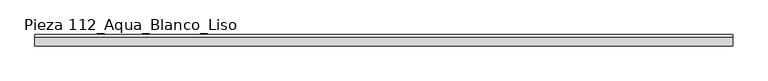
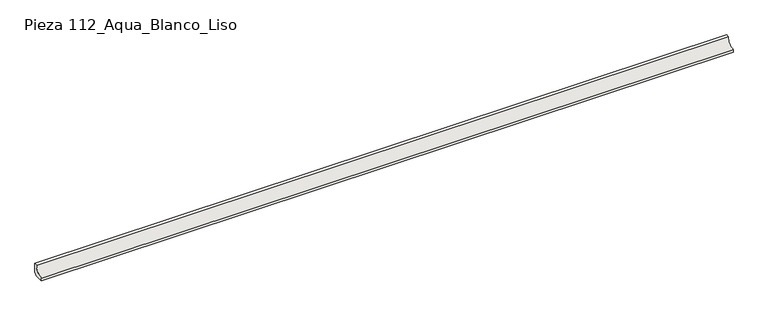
"""IFC4 building model written with IfcOpenShell, lengths in millimetres: slab geometry, ROSA GRES_112 : Pieza 112_Aqua_Blanco_Liso."""

import ifcopenshell
import ifcopenshell.guid

model = None  # the IFC model being written
_history = None  # IfcOwnerHistory: only IFC2X3 demands one
_inside = {}  # id of a spatial element -> (the spatial element, [elements in it])
_under = {}  # id of a project, library or spatial element -> (it, [spatial elements below it])
_declared = {}  # id of a project -> (the project, [libraries it declares])
_typed = {}  # id of a type object -> (the type object, [elements of that type])
_made_of = {}  # id of a material, layer set ... -> (it, [elements and type objects made of it])


def new_model(schema):
    """Start an empty IFC model of exactly this schema.

    Asked for "IFC4X3", IfcOpenShell would pick the latest addendum, in which some entities
    have other attributes; the version numbers below select the first issue.
    IFC2X3 requires an IfcOwnerHistory on every rooted entity: one is made here for all.
    """
    global model, _history
    if schema == "IFC4X3":
        model = ifcopenshell.file(schema_version=(4, 3, 0, 0))
    else:
        model = ifcopenshell.file(schema=schema)
    _inside.clear()
    _under.clear()
    _declared.clear()
    _typed.clear()
    _made_of.clear()
    _history = None
    if model.schema == "IFC2X3":
        org = make("IfcOrganization", Name="unknown")
        user = make(
            "IfcPersonAndOrganization",
            ThePerson=make("IfcPerson", FamilyName="unknown"),
            TheOrganization=org,
        )
        app = make(
            "IfcApplication",
            ApplicationDeveloper=org,
            Version="unknown",
            ApplicationFullName="unknown",
            ApplicationIdentifier="unknown",
        )
        _history = make(
            "IfcOwnerHistory",
            OwningUser=user,
            OwningApplication=app,
            ChangeAction="ADDED",
            CreationDate=0,
        )
    return model


def make(cls, **values):
    """One entity of the class cls with the attributes given. An attribute that is None is left unset."""
    return model.create_entity(
        cls, **{name: value for name, value in values.items() if value is not None}
    )


def rooted(cls, **values):
    """An entity with a GlobalId (a new one), such as an element, a storey or a relation."""
    return make(cls, GlobalId=ifcopenshell.guid.new(), OwnerHistory=_history, **values)


def si_unit(unit_type, name, prefix=None):
    """IfcSIUnit, for example si_unit("LENGTHUNIT", "METRE", prefix="MILLI")."""
    return make("IfcSIUnit", UnitType=unit_type, Prefix=prefix, Name=name)


def assignment(units):
    """IfcUnitAssignment: the units of a project."""
    return None if units is None else make("IfcUnitAssignment", Units=units)


def point(xyz):
    """IfcCartesianPoint."""
    return None if xyz is None else make("IfcCartesianPoint", Coordinates=xyz)


def direction(xyz):
    """IfcDirection."""
    return None if xyz is None else make("IfcDirection", DirectionRatios=xyz)


def frame(location, z_axis=None, x_axis=None):
    """IfcAxis2Placement3D, a coordinate frame: its origin and axes. An axis left out is left unset."""
    return make(
        "IfcAxis2Placement3D",
        Location=point(location),
        Axis=direction(z_axis),
        RefDirection=direction(x_axis),
    )


def frame_2d(location, x_axis=None):
    """IfcAxis2Placement2D, a coordinate frame in the plane: its origin and x axis."""
    return make(
        "IfcAxis2Placement2D", Location=point(location), RefDirection=direction(x_axis)
    )


def origin():
    """The frame at (0, 0, 0) with its axes left unset."""
    return frame((0.0, 0.0, 0.0))


def place(relative_to, where):
    """IfcLocalPlacement: puts the frame where relative to a parent placement (None: the world)."""
    return make(
        "IfcLocalPlacement", PlacementRelTo=relative_to, RelativePlacement=where
    )


def context(
    kind, dimensions, precision=None, world=None, true_north=None, identifier=None
):
    """IfcGeometricRepresentationContext, for example the 3D "Model" context."""
    return make(
        "IfcGeometricRepresentationContext",
        ContextIdentifier=identifier,
        ContextType=kind,
        CoordinateSpaceDimension=dimensions,
        Precision=precision,
        WorldCoordinateSystem=world,
        TrueNorth=true_north,
    )


def project(units=None, contexts=None):
    """IfcProject with its units and contexts."""
    return rooted(
        "IfcProject",
        Name="project",
        RepresentationContexts=contexts,
        UnitsInContext=assignment(units),
    )


def spatial(cls, under=None, at=None, **own):
    """A site, building, storey or space (cls), placed at a placement, below another one or the project."""
    s = rooted(cls, ObjectPlacement=at, **own)
    if under is not None:
        _under.setdefault(under.id(), (under, []))[1].append(s)
    return s


def polyline(points):
    """IfcPolyline through the points."""
    return make("IfcPolyline", Points=[point(p) for p in points])


def circle_curve(where, radius):
    """IfcCircle in the frame where."""
    return make("IfcCircle", Position=where, Radius=radius)


def trimmed(basis, trim1, trim2, sense, master):
    """IfcTrimmedCurve: the piece of a basis curve between two trims."""
    return make(
        "IfcTrimmedCurve",
        BasisCurve=basis,
        Trim1=trim1,
        Trim2=trim2,
        SenseAgreement=sense,
        MasterRepresentation=master,
    )


def segment(curve, same_sense, transition):
    """IfcCompositeCurveSegment."""
    return make(
        "IfcCompositeCurveSegment",
        Transition=transition,
        SameSense=same_sense,
        ParentCurve=curve,
    )


def composite_curve(segments, self_intersect=None):
    """IfcCompositeCurve: segments joined end to end."""
    return make("IfcCompositeCurve", Segments=segments, SelfIntersect=self_intersect)


def outline(outer, holes=None, kind="AREA"):
    """IfcArbitraryClosedProfileDef: a profile drawn as a closed curve; with holes, ...WithVoids."""
    if holes is None:
        return make("IfcArbitraryClosedProfileDef", ProfileType=kind, OuterCurve=outer)
    return make(
        "IfcArbitraryProfileDefWithVoids",
        ProfileType=kind,
        OuterCurve=outer,
        InnerCurves=holes,
    )


def extrude(swept, where, along, depth):
    """IfcExtrudedAreaSolid: the profile swept, set in the frame where, extruded along a direction by depth."""
    return make(
        "IfcExtrudedAreaSolid",
        SweptArea=swept,
        Position=where,
        ExtrudedDirection=direction(along),
        Depth=depth,
    )


def shape(context_of_items, identifier, shape_type, items):
    """IfcShapeRepresentation: the items that make up one representation, for example the "Body"."""
    return make(
        "IfcShapeRepresentation",
        ContextOfItems=context_of_items,
        RepresentationIdentifier=identifier,
        RepresentationType=shape_type,
        Items=items,
    )


def source(mapping_origin, context_of_items, identifier, shape_type, items):
    """IfcRepresentationMap: a shape defined once, which mapped items show again and again."""
    return make(
        "IfcRepresentationMap",
        MappingOrigin=mapping_origin,
        MappedRepresentation=shape(context_of_items, identifier, shape_type, items),
    )


def transform(
    local_origin,
    x_axis=None,
    y_axis=None,
    z_axis=None,
    scale=None,
    scale2=None,
    scale3=None,
    uniform=True,
):
    """IfcCartesianTransformationOperator3D, or its non-uniform kind. x_axis, y_axis, z_axis: its Axis1, 2, 3."""
    if uniform:
        return make(
            "IfcCartesianTransformationOperator3D",
            Axis1=direction(x_axis),
            Axis2=direction(y_axis),
            LocalOrigin=point(local_origin),
            Scale=scale,
            Axis3=direction(z_axis),
        )
    return make(
        "IfcCartesianTransformationOperator3DnonUniform",
        Axis1=direction(x_axis),
        Axis2=direction(y_axis),
        LocalOrigin=point(local_origin),
        Scale=scale,
        Axis3=direction(z_axis),
        Scale2=scale2,
        Scale3=scale3,
    )


def mapped(mapping_source, mapping_target):
    """IfcMappedItem: shows the shape of a source again, moved by a transform."""
    return make(
        "IfcMappedItem", MappingSource=mapping_source, MappingTarget=mapping_target
    )


def made_of(thing, what):
    """Note that an element or type object is made of a material, layer set ...; save() writes the relation."""
    if what is not None:
        _made_of.setdefault(what.id(), (what, []))[1].append(thing)
    return thing


def element(
    cls,
    number,
    at=None,
    inside=None,
    cuts=None,
    type_object=None,
    material=None,
    context=None,
    identifier="Body",
    shape_type=None,
    held_by="IfcProductDefinitionShape",
    body=None,
    shapes=None,
    **own,
):
    """One element of the class cls, such as IfcWall. Its Tag is "e" and its number.

    at: its placement. inside: the storey or other place that contains it. cuts: it is an
    opening in that element (IfcRelVoidsElement). A single representation is given by context,
    identifier, shape_type and body (its items); several are given by shapes. held_by: the class
    of the entity that holds the representations. save() writes the other relations.
    """
    e = rooted(cls, Tag="e%d" % number, ObjectPlacement=at, **own)
    if body is not None:
        shapes = [shape(context, identifier, shape_type, body)]
    if shapes is not None:
        e.Representation = make(held_by, Representations=shapes)
    if inside is not None:
        _inside.setdefault(inside.id(), (inside, []))[1].append(e)
    if cuts is not None:
        rooted(
            "IfcRelVoidsElement", RelatingBuildingElement=cuts, RelatedOpeningElement=e
        )
    if type_object is not None:
        _typed.setdefault(type_object.id(), (type_object, []))[1].append(e)
    return made_of(e, material)


def aggregate(whole, parts):
    """IfcRelAggregates: a whole, such as a stair, and the parts it consists of."""
    return rooted("IfcRelAggregates", RelatingObject=whole, RelatedObjects=parts)


def save(model, path):
    """Write the relations noted so far, then the file.

    IfcRelAggregates (storeys below a building ...), IfcRelContainedInSpatialStructure (elements
    in a storey), IfcRelDefinesByType, IfcRelAssociatesMaterial and IfcRelDeclares: one each for
    every whole, place, type object, material and project.
    """
    for whole, parts in _under.values():
        aggregate(whole, parts)
    for where, things in _inside.values():
        rooted(
            "IfcRelContainedInSpatialStructure",
            RelatedElements=things,
            RelatingStructure=where,
        )
    for kind, things in _typed.values():
        rooted("IfcRelDefinesByType", RelatedObjects=things, RelatingType=kind)
    for what, things in _made_of.values():
        rooted("IfcRelAssociatesMaterial", RelatedObjects=things, RelatingMaterial=what)
    for by, libraries in _declared.values():
        rooted("IfcRelDeclares", RelatingContext=by, RelatedDefinitions=libraries)
    model.write(path)


def pieza_112_aqua_blanco_liso_2c01da05(model_context):
    return source(origin(), model_context, "Body", "SweptSolid", [
        extrude(outline(composite_curve([segment(polyline([(9.9734114, 8.7114978), (1.2619137, 0.0), (-30.0265886, 0.0), (-30.0265886, 9.9734114)]), True, "CONTINUOUS"), segment(trimmed(circle_curve(frame_2d((-30.0221432, 39.9955547)), 30.0221435), [point((-30.0265886, 9.9734114))], [point((0.0, 40.0))], True, "CARTESIAN"), True, "CONTINUOUS"), segment(polyline([(0.0, 40.0), (9.9734114, 40.0), (9.9734114, 8.7114978)]), True, "CONTINUOUS")], self_intersect=False)), frame((0.0, 0.0, 0.0), z_axis=(1.0, 0.0, 0.0), x_axis=(0.0, 1.0, 0.0)), (0.0, 0.0, 1.0), 2430.0),
    ])


if __name__ == "__main__":
    model = new_model("IFC4")
    model_context = context("Model", 3, world=origin())
    ifc_project = project(units=[si_unit("LENGTHUNIT", "METRE", prefix="MILLI")], contexts=[model_context])
    site = spatial("IfcSite", under=ifc_project)
    building = spatial("IfcBuilding", under=site)
    placement = place(None, origin())
    pieza_112_aqua_blanco_liso_shape = pieza_112_aqua_blanco_liso_2c01da05(model_context)
    element("IfcSlab", 1, ObjectType="ROSA GRES_112 : Pieza 112_Aqua_Blanco_Liso", at=placement, inside=building, context=model_context, shape_type="MappedRepresentation", body=[
        mapped(pieza_112_aqua_blanco_liso_shape, transform((0.0, 0.0, 0.0), x_axis=(1.0, 0.0, 0.0), y_axis=(0.0, 1.0, 0.0), z_axis=(0.0, 0.0, 1.0))),
    ])
    save(model, "model.ifc")
